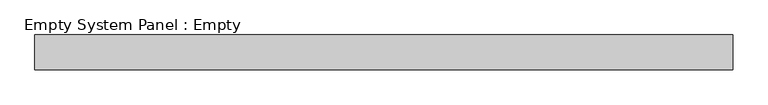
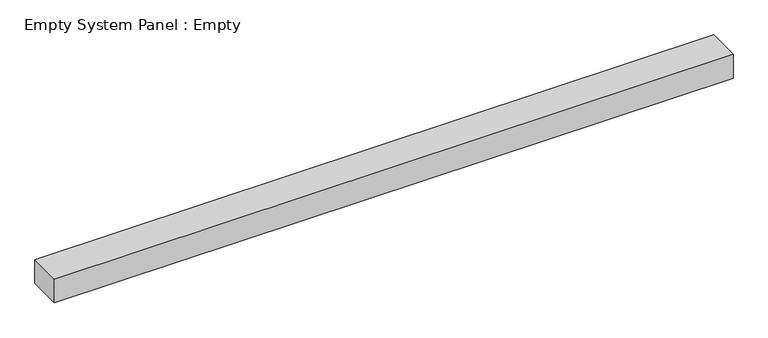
"""IFC4 building model written with IfcOpenShell, lengths in millimetres: plate geometry, Empty System Panel : Empty."""

from ifc_helpers import new_model, si_unit, origin, origin_with_axes, place, context, project, spatial, polyline, outline, extrude, source, transform, mapped, element, save


def empty_system_panel_empty_499a71de(model_context):
    return source(origin(), model_context, "Body", "SweptSolid", [
        extrude(outline(polyline([(1000.0, -50.0), (-1000.0, -50.0), (-1000.0, 50.0), (1000.0, 50.0), (1000.0, -50.0)])), origin_with_axes(), (0.0, 0.0, 1.0), 74.0),
    ])


if __name__ == "__main__":
    model = new_model("IFC4")
    model_context = context("Model", 3, world=origin())
    ifc_project = project(units=[si_unit("LENGTHUNIT", "METRE", prefix="MILLI")], contexts=[model_context])
    site = spatial("IfcSite", under=ifc_project)
    building = spatial("IfcBuilding", under=site)
    placement = place(None, origin())
    empty_system_panel_empty_shape = empty_system_panel_empty_499a71de(model_context)
    element("IfcPlate", 1, ObjectType="Empty System Panel : Empty", at=placement, inside=building, context=model_context, shape_type="MappedRepresentation", body=[
        mapped(empty_system_panel_empty_shape, transform((0.0, 0.0, 0.0), x_axis=(1.0, 0.0, 0.0), y_axis=(0.0, 1.0, 0.0), z_axis=(0.0, 0.0, 1.0))),
    ])
    save(model, "model.ifc")
